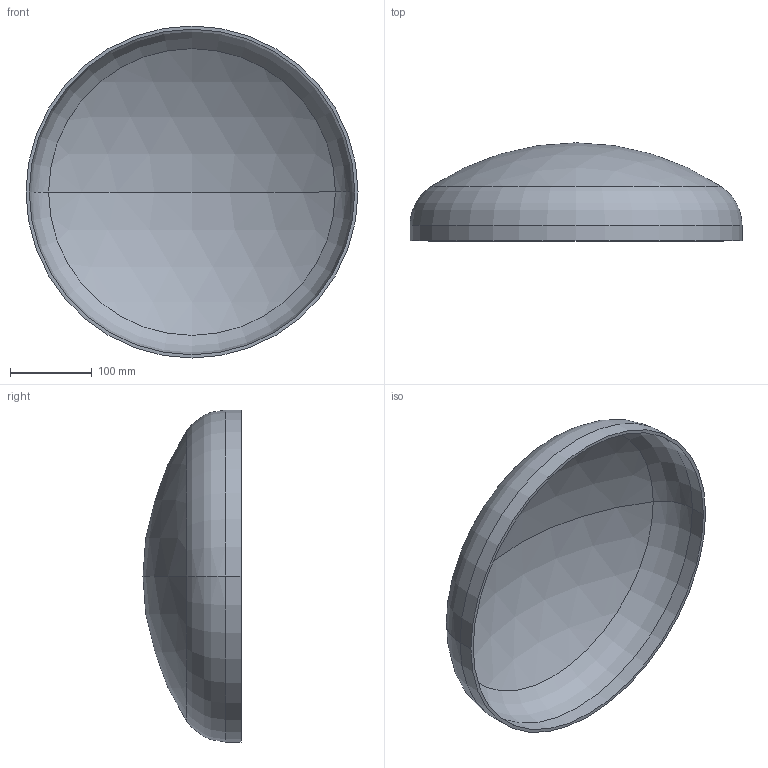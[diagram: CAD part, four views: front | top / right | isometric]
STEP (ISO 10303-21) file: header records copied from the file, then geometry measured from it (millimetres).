
FILE_DESCRIPTION (( 'STEP AP203' ), '1' );
FILE_NAME ('3D_R365_406.4x4_173374090.STEP', '2024-07-16T07:28:49', ( '' ), ( '' ), 'SwSTEP 2.0', 'SolidWorks 2024', '' );
FILE_SCHEMA (( 'CONFIG_CONTROL_DESIGN' ));
Length unit declared in the file: millimetre
Products named in the file (1): 3D_R365_406.4x4_173374090
Bounding box: 406.4 x 120 x 406.4 mm (x, y, z)
Volume: 785443.5 mm3; surface area: 397811.8 mm2
Topology: 1 solids, 1 shells, 13 faces, 24 edges, 14 vertices
Faces by surface type: sphere 4, torus 4, cylinder 4, plane 1
Entity records: 407 total; most frequent: DIRECTION 72, CARTESIAN_POINT 52, ORIENTED_EDGE 48, AXIS2_PLACEMENT_3D 34, EDGE_CURVE 24, CIRCLE 20, EDGE_LOOP 14, VERTEX_POINT 14
